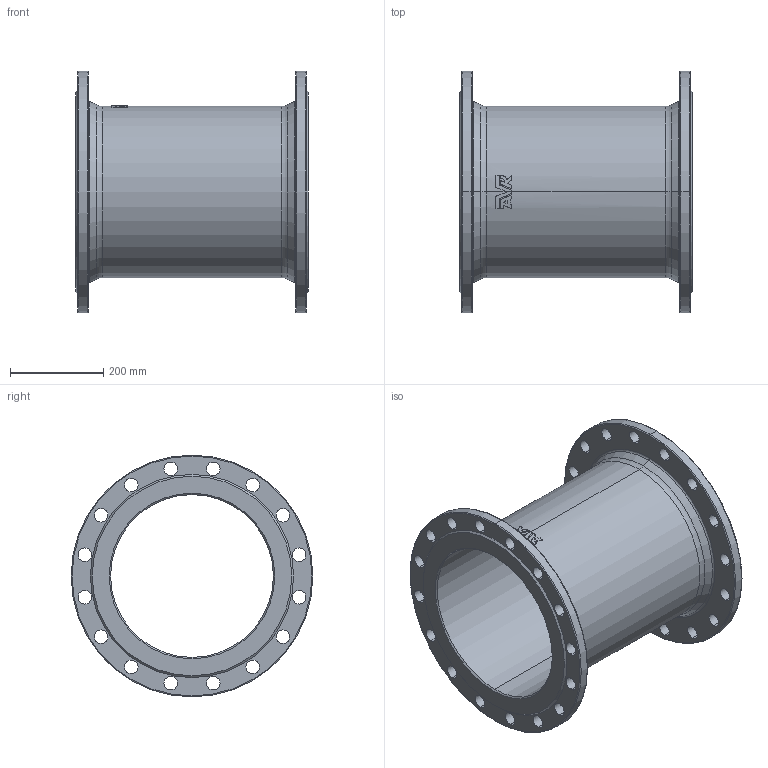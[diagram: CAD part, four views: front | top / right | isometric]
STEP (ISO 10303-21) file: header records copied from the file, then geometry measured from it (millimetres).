
FILE_DESCRIPTION (( 'STEP AP203' ), '1' );
FILE_NAME ('O_712_4810_DN350_1X_REV01.step', '2021-12-01T10:51:39', ( '' ), ( '' ), 'SwSTEP 2.0', 'SolidWorks 2019', '' );
FILE_SCHEMA (( 'CONFIG_CONTROL_DESIGN' ));
Length unit declared in the file: millimetre
Products named in the file (1): O_712_4810_DN350_1X_REV01
Bounding box: 500 x 520 x 520 mm (x, y, z)
Volume: 10290245 mm3; surface area: 1582018 mm2
Topology: 1 solids, 1 shells, 148 faces, 391 edges, 252 vertices
Faces by surface type: cylinder 77, plane 26, bspline 17, torus 16, cone 12
Entity records: 5626 total; most frequent: CARTESIAN_POINT 1655, DIRECTION 847, ORIENTED_EDGE 782, EDGE_CURVE 391, AXIS2_PLACEMENT_3D 358, VERTEX_POINT 252, CIRCLE 226, EDGE_LOOP 221
